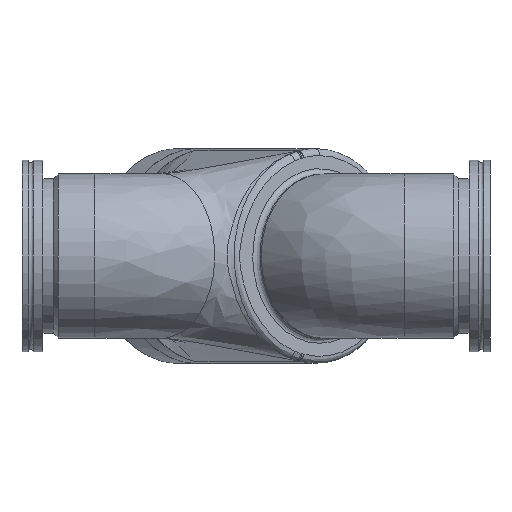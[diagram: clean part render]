
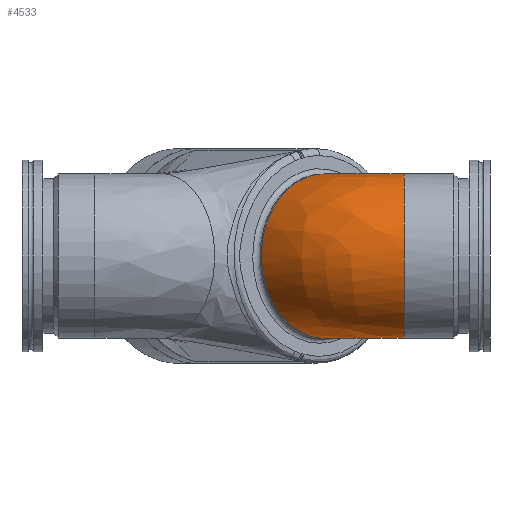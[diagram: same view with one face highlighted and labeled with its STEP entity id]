
A CAD part, front view. The second image highlights one B-rep face of the part: STEP entity #4533.
In plain terms, the highlighted free-form (B-spline) face has degree [3, 2] with [4, 5] control points.
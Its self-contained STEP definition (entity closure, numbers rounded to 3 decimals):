
#1353=(
BOUNDED_SURFACE()
B_SPLINE_SURFACE(3,2,((#16935,#16936,#16937,#16938,#16939),(#16940,#16941,
#16942,#16943,#16944),(#16945,#16946,#16947,#16948,#16949),(#16950,#16951,
#16952,#16953,#16954)),.UNSPECIFIED.,.F.,.F.,.F.)
B_SPLINE_SURFACE_WITH_KNOTS((4,4),(3,2,3),(0.,1.),(0.,0.5,1.),
 .UNSPECIFIED.)
GEOMETRIC_REPRESENTATION_ITEM()
RATIONAL_B_SPLINE_SURFACE(((1.,0.5,1.,0.5,1.),(0.938,0.469,
0.938,0.469,0.938),(0.938,
0.469,0.938,0.469,0.938),
(1.,0.5,1.,0.5,1.)))
REPRESENTATION_ITEM('')
SURFACE()
);
#1616=(
BOUNDED_CURVE()
B_SPLINE_CURVE(3,(#16913,#16914,#16915,#16916),.UNSPECIFIED.,.F.,.F.)
B_SPLINE_CURVE_WITH_KNOTS((4,4),(0.,1.),.UNSPECIFIED.)
CURVE()
GEOMETRIC_REPRESENTATION_ITEM()
RATIONAL_B_SPLINE_CURVE((1.,0.938,0.938,1.))
REPRESENTATION_ITEM('')
);
#1617=(
BOUNDED_CURVE()
B_SPLINE_CURVE(2,(#16919,#16920,#16921,#16922,#16923),.UNSPECIFIED.,.F.,
 .F.)
B_SPLINE_CURVE_WITH_KNOTS((3,2,3),(0.,0.5,1.),.UNSPECIFIED.)
CURVE()
GEOMETRIC_REPRESENTATION_ITEM()
RATIONAL_B_SPLINE_CURVE((1.,0.5,1.,0.5,1.))
REPRESENTATION_ITEM('')
);
#1618=(
BOUNDED_CURVE()
B_SPLINE_CURVE(3,(#16925,#16926,#16927,#16928),.UNSPECIFIED.,.F.,.F.)
B_SPLINE_CURVE_WITH_KNOTS((4,4),(0.,1.),.UNSPECIFIED.)
CURVE()
GEOMETRIC_REPRESENTATION_ITEM()
RATIONAL_B_SPLINE_CURVE((1.,0.938,0.938,1.))
REPRESENTATION_ITEM('')
);
#1619=(
BOUNDED_CURVE()
B_SPLINE_CURVE(2,(#16930,#16931,#16932,#16933,#16934),.UNSPECIFIED.,.F.,
 .F.)
B_SPLINE_CURVE_WITH_KNOTS((3,2,3),(0.,0.5,1.),
 .UNSPECIFIED.)
CURVE()
GEOMETRIC_REPRESENTATION_ITEM()
RATIONAL_B_SPLINE_CURVE((1.,0.5,1.,0.5,1.))
REPRESENTATION_ITEM('')
);
#1955=FACE_OUTER_BOUND('',#5955,.T.);
#4533=ADVANCED_FACE('',(#1955),#1353,.F.);
#5955=EDGE_LOOP('',(#8011,#8012,#8013,#8014));
#8011=ORIENTED_EDGE('',*,*,#10150,.F.);
#8012=ORIENTED_EDGE('',*,*,#10151,.T.);
#8013=ORIENTED_EDGE('',*,*,#10152,.T.);
#8014=ORIENTED_EDGE('',*,*,#10153,.F.);
#9068=VERTEX_POINT('',#16917);
#9069=VERTEX_POINT('',#16918);
#9070=VERTEX_POINT('',#16924);
#9071=VERTEX_POINT('',#16929);
#10150=EDGE_CURVE('',#9068,#9069,#1616,.T.);
#10151=EDGE_CURVE('',#9068,#9070,#1617,.T.);
#10152=EDGE_CURVE('',#9070,#9071,#1618,.T.);
#10153=EDGE_CURVE('',#9069,#9071,#1619,.T.);
#16913=CARTESIAN_POINT('',(52.022,0.,47.));
#16914=CARTESIAN_POINT('',(70.053,0.,47.));
#16915=CARTESIAN_POINT('',(86.394,7.62,47.));
#16916=CARTESIAN_POINT('',(97.984,21.433,47.));
#16917=CARTESIAN_POINT('',(52.022,0.,47.));
#16918=CARTESIAN_POINT('',(97.984,21.433,47.));
#16919=CARTESIAN_POINT('',(52.022,0.,47.));
#16920=CARTESIAN_POINT('',(52.022,-81.406,47.));
#16921=CARTESIAN_POINT('',(52.022,-40.703,-23.5));
#16922=CARTESIAN_POINT('',(52.022,0.,-94.));
#16923=CARTESIAN_POINT('',(52.022,40.703,-23.5));
#16924=CARTESIAN_POINT('',(52.022,40.703,-23.5));
#16925=CARTESIAN_POINT('',(52.022,40.703,-23.5));
#16926=CARTESIAN_POINT('',(57.821,40.703,-23.5));
#16927=CARTESIAN_POINT('',(63.076,43.154,-23.5));
#16928=CARTESIAN_POINT('',(66.804,47.596,-23.5));
#16929=CARTESIAN_POINT('',(66.804,47.596,-23.5));
#16930=CARTESIAN_POINT('',(97.984,21.433,47.));
#16931=CARTESIAN_POINT('',(160.345,-30.894,47.));
#16932=CARTESIAN_POINT('',(129.165,-4.731,-23.5));
#16933=CARTESIAN_POINT('',(97.984,21.433,-94.));
#16934=CARTESIAN_POINT('',(66.804,47.596,-23.5));
#16935=CARTESIAN_POINT('',(52.022,0.,47.));
#16936=CARTESIAN_POINT('',(52.022,-81.406,47.));
#16937=CARTESIAN_POINT('',(52.022,-40.703,-23.5));
#16938=CARTESIAN_POINT('',(52.022,0.,-94.));
#16939=CARTESIAN_POINT('',(52.022,40.703,-23.5));
#16940=CARTESIAN_POINT('',(70.053,0.,47.));
#16941=CARTESIAN_POINT('',(94.516,-81.406,47.));
#16942=CARTESIAN_POINT('',(82.284,-40.703,-23.5));
#16943=CARTESIAN_POINT('',(70.053,0.,-94.));
#16944=CARTESIAN_POINT('',(57.821,40.703,-23.5));
#16945=CARTESIAN_POINT('',(86.394,7.62,47.));
#16946=CARTESIAN_POINT('',(133.03,-63.447,47.));
#16947=CARTESIAN_POINT('',(109.712,-27.914,-23.5));
#16948=CARTESIAN_POINT('',(86.394,7.62,-94.));
#16949=CARTESIAN_POINT('',(63.076,43.154,-23.5));
#16950=CARTESIAN_POINT('',(97.984,21.433,47.));
#16951=CARTESIAN_POINT('',(160.345,-30.894,47.));
#16952=CARTESIAN_POINT('',(129.165,-4.731,-23.5));
#16953=CARTESIAN_POINT('',(97.984,21.433,-94.));
#16954=CARTESIAN_POINT('',(66.804,47.596,-23.5));
